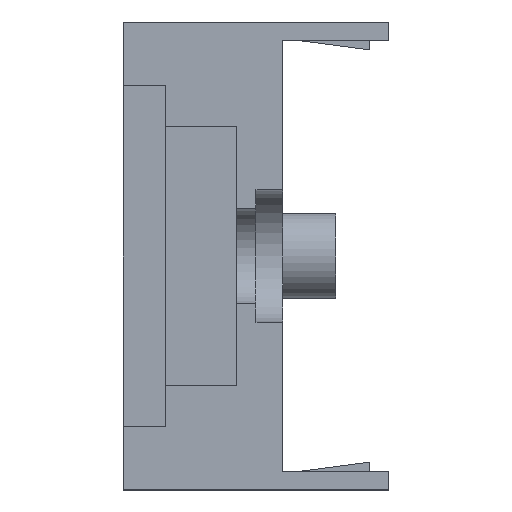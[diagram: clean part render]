
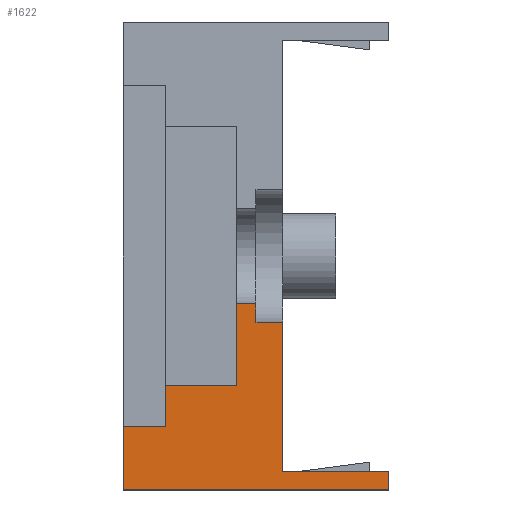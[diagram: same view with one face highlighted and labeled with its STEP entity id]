
A CAD part, left-side view. The second image highlights one B-rep face of the part: STEP entity #1622.
In plain terms, the highlighted planar face has unit normal (-1, 0, 0).
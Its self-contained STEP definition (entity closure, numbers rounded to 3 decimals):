
#37 = CARTESIAN_POINT ( 'NONE',  ( -50., 14.3, -4.5 ) ) ;
#98 = ORIENTED_EDGE ( 'NONE', *, *, #982, .T. ) ;
#126 = VERTEX_POINT ( 'NONE', #2890 ) ;
#296 = CARTESIAN_POINT ( 'NONE',  ( -50., 10., -20.3 ) ) ;
#300 = LINE ( 'NONE', #1837, #1325 ) ;
#312 = EDGE_CURVE ( 'NONE', #126, #2153, #1408, .T. ) ;
#313 = LINE ( 'NONE', #1552, #3446 ) ;
#356 = PLANE ( 'NONE',  #1566 ) ;
#407 = CARTESIAN_POINT ( 'NONE',  ( -50., 21., -16. ) ) ;
#504 = CARTESIAN_POINT ( 'NONE',  ( -50., 21., -16. ) ) ;
#738 = CARTESIAN_POINT ( 'NONE',  ( -50., 10., -20.3 ) ) ;
#757 = CARTESIAN_POINT ( 'NONE',  ( -50., 25., 22. ) ) ;
#781 = ORIENTED_EDGE ( 'NONE', *, *, #3854, .T. ) ;
#788 = DIRECTION ( 'NONE',  ( 0., 0., 1. ) ) ;
#813 = DIRECTION ( 'NONE',  ( 0., 1., 0. ) ) ;
#830 = LINE ( 'NONE', #1159, #1825 ) ;
#896 = ORIENTED_EDGE ( 'NONE', *, *, #312, .T. ) ;
#902 = VERTEX_POINT ( 'NONE', #1049 ) ;
#927 = DIRECTION ( 'NONE',  ( 0., -1., 0. ) ) ;
#928 = VERTEX_POINT ( 'NONE', #2915 ) ;
#982 = EDGE_CURVE ( 'NONE', #2566, #1074, #2468, .T. ) ;
#988 = VECTOR ( 'NONE', #2772, 1000. ) ;
#1007 = EDGE_CURVE ( 'NONE', #3099, #2186, #300, .T. ) ;
#1049 = CARTESIAN_POINT ( 'NONE',  ( -50., 0., -20.3 ) ) ;
#1052 = EDGE_CURVE ( 'NONE', #2451, #1915, #2107, .T. ) ;
#1074 = VERTEX_POINT ( 'NONE', #1521 ) ;
#1149 = DIRECTION ( 'NONE',  ( 0., 1., 0. ) ) ;
#1150 = ORIENTED_EDGE ( 'NONE', *, *, #1371, .F. ) ;
#1159 = CARTESIAN_POINT ( 'NONE',  ( -50., 14.3, 0. ) ) ;
#1193 = CARTESIAN_POINT ( 'NONE',  ( -50., 25., -22. ) ) ;
#1216 = DIRECTION ( 'NONE',  ( 0., 0., -1. ) ) ;
#1281 = VERTEX_POINT ( 'NONE', #738 ) ;
#1325 = VECTOR ( 'NONE', #1149, 1000. ) ;
#1371 = EDGE_CURVE ( 'NONE', #2566, #928, #1390, .T. ) ;
#1390 = LINE ( 'NONE', #757, #2682 ) ;
#1408 = LINE ( 'NONE', #2950, #1529 ) ;
#1519 = VECTOR ( 'NONE', #1793, 1000. ) ;
#1521 = CARTESIAN_POINT ( 'NONE',  ( -50., 0., -22. ) ) ;
#1529 = VECTOR ( 'NONE', #813, 1000. ) ;
#1548 = ORIENTED_EDGE ( 'NONE', *, *, #2224, .T. ) ;
#1552 = CARTESIAN_POINT ( 'NONE',  ( -50., 21., -16. ) ) ;
#1566 = AXIS2_PLACEMENT_3D ( 'NONE', #1592, #1918, #2831 ) ;
#1592 = CARTESIAN_POINT ( 'NONE',  ( -50., 25., 22. ) ) ;
#1622 = ADVANCED_FACE ( 'NONE', ( #3133 ), #356, .F. ) ;
#1686 = EDGE_CURVE ( 'NONE', #1281, #902, #3986, .T. ) ;
#1739 = EDGE_CURVE ( 'NONE', #2451, #2276, #313, .T. ) ;
#1784 = CARTESIAN_POINT ( 'NONE',  ( -50., 14.3, -12.2 ) ) ;
#1793 = DIRECTION ( 'NONE',  ( 0., 0., 1. ) ) ;
#1825 = VECTOR ( 'NONE', #788, 1000. ) ;
#1837 = CARTESIAN_POINT ( 'NONE',  ( -50., 12.5, -6.25 ) ) ;
#1849 = VECTOR ( 'NONE', #3317, 1000. ) ;
#1915 = VERTEX_POINT ( 'NONE', #1784 ) ;
#1918 = DIRECTION ( 'NONE',  ( 1., 0., 0. ) ) ;
#1943 = CARTESIAN_POINT ( 'NONE',  ( -50., 25., -22. ) ) ;
#1950 = EDGE_CURVE ( 'NONE', #1915, #2153, #830, .T. ) ;
#1973 = ORIENTED_EDGE ( 'NONE', *, *, #1686, .F. ) ;
#2087 = VECTOR ( 'NONE', #2595, 1000. ) ;
#2107 = LINE ( 'NONE', #4009, #1849 ) ;
#2153 = VERTEX_POINT ( 'NONE', #37 ) ;
#2184 = DIRECTION ( 'NONE',  ( 0., 0., -1. ) ) ;
#2186 = VERTEX_POINT ( 'NONE', #3505 ) ;
#2224 = EDGE_CURVE ( 'NONE', #2276, #928, #2844, .T. ) ;
#2276 = VERTEX_POINT ( 'NONE', #504 ) ;
#2422 = VECTOR ( 'NONE', #927, 1000. ) ;
#2437 = EDGE_CURVE ( 'NONE', #126, #2186, #3387, .T. ) ;
#2451 = VERTEX_POINT ( 'NONE', #3653 ) ;
#2468 = LINE ( 'NONE', #1193, #2422 ) ;
#2518 = EDGE_CURVE ( 'NONE', #3099, #1281, #2763, .T. ) ;
#2566 = VERTEX_POINT ( 'NONE', #1943 ) ;
#2595 = DIRECTION ( 'NONE',  ( 0., 1., 0. ) ) ;
#2637 = ORIENTED_EDGE ( 'NONE', *, *, #1950, .F. ) ;
#2682 = VECTOR ( 'NONE', #3230, 1000. ) ;
#2694 = CARTESIAN_POINT ( 'NONE',  ( -50., 0., 22. ) ) ;
#2703 = ORIENTED_EDGE ( 'NONE', *, *, #1052, .F. ) ;
#2722 = DIRECTION ( 'NONE',  ( 0., 0., -1. ) ) ;
#2763 = LINE ( 'NONE', #3995, #3966 ) ;
#2768 = ORIENTED_EDGE ( 'NONE', *, *, #1739, .T. ) ;
#2772 = DIRECTION ( 'NONE',  ( 0., -1., 0. ) ) ;
#2831 = DIRECTION ( 'NONE',  ( 0., 0., -1. ) ) ;
#2844 = LINE ( 'NONE', #407, #2087 ) ;
#2890 = CARTESIAN_POINT ( 'NONE',  ( -50., 12.5, -4.5 ) ) ;
#2915 = CARTESIAN_POINT ( 'NONE',  ( -50., 25., -16. ) ) ;
#2916 = ORIENTED_EDGE ( 'NONE', *, *, #2518, .F. ) ;
#2950 = CARTESIAN_POINT ( 'NONE',  ( -50., 0., -4.5 ) ) ;
#3099 = VERTEX_POINT ( 'NONE', #3905 ) ;
#3102 = CARTESIAN_POINT ( 'NONE',  ( -50., 12.5, 22. ) ) ;
#3133 = FACE_OUTER_BOUND ( 'NONE', #4000, .T. ) ;
#3230 = DIRECTION ( 'NONE',  ( 0., 0., 1. ) ) ;
#3317 = DIRECTION ( 'NONE',  ( 0., -1., 0. ) ) ;
#3385 = VECTOR ( 'NONE', #2722, 1000. ) ;
#3387 = LINE ( 'NONE', #3102, #3385 ) ;
#3401 = ORIENTED_EDGE ( 'NONE', *, *, #2437, .F. ) ;
#3446 = VECTOR ( 'NONE', #2184, 1000. ) ;
#3505 = CARTESIAN_POINT ( 'NONE',  ( -50., 12.5, -6.25 ) ) ;
#3568 = ORIENTED_EDGE ( 'NONE', *, *, #1007, .T. ) ;
#3653 = CARTESIAN_POINT ( 'NONE',  ( -50., 21., -12.2 ) ) ;
#3854 = EDGE_CURVE ( 'NONE', #1074, #902, #3926, .T. ) ;
#3905 = CARTESIAN_POINT ( 'NONE',  ( -50., 10., -6.25 ) ) ;
#3926 = LINE ( 'NONE', #2694, #1519 ) ;
#3966 = VECTOR ( 'NONE', #1216, 1000. ) ;
#3986 = LINE ( 'NONE', #296, #988 ) ;
#3995 = CARTESIAN_POINT ( 'NONE',  ( -50., 10., 20.3 ) ) ;
#4000 = EDGE_LOOP ( 'NONE', ( #2768, #1548, #1150, #98, #781, #1973, #2916, #3568, #3401, #896, #2637, #2703 ) ) ;
#4009 = CARTESIAN_POINT ( 'NONE',  ( -50., 29.857, -12.2 ) ) ;
